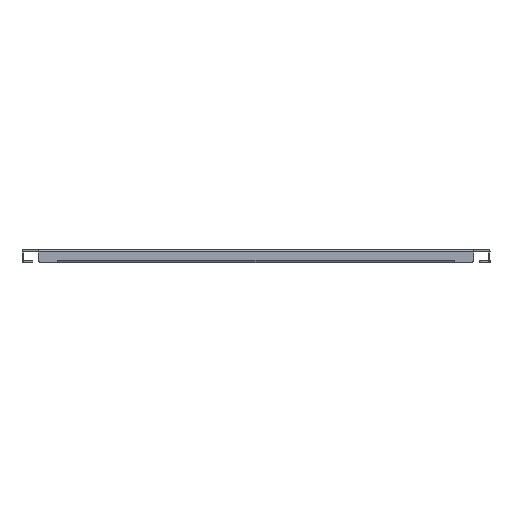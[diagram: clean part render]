
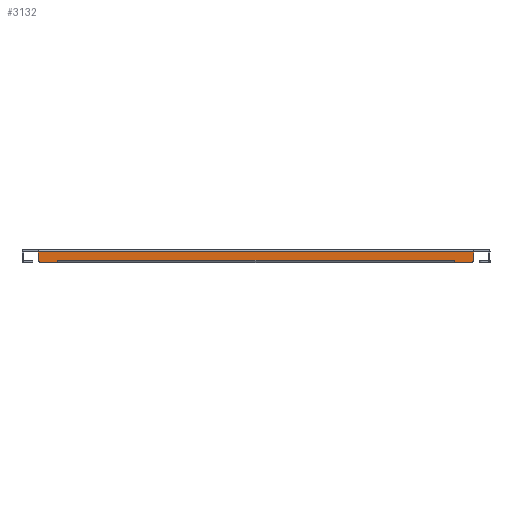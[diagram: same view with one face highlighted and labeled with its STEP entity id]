
A CAD part, front view. The second image highlights one B-rep face of the part: STEP entity #3132.
In plain terms, the highlighted planar face has unit normal (0, -1, 0).
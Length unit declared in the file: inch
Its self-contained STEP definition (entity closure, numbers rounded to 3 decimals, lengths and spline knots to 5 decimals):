
#82=PLANE('',#3407);
#200=FACE_OUTER_BOUND('',#390,.T.);
#390=EDGE_LOOP('',(#2467,#2468,#2469,#2470,#2471,#2472,#2473,#2474,#2475,
#2476,#2477,#2478,#2479,#2480));
#606=LINE('',#4836,#938);
#626=LINE('',#4904,#958);
#644=LINE('',#4965,#976);
#647=LINE('',#4970,#979);
#648=LINE('',#4974,#980);
#649=LINE('',#4976,#981);
#650=LINE('',#4978,#982);
#651=LINE('',#4980,#983);
#652=LINE('',#4982,#984);
#653=LINE('',#4984,#985);
#654=LINE('',#4986,#986);
#655=LINE('',#4987,#987);
#938=VECTOR('',#3897,0.3937);
#958=VECTOR('',#3951,0.3937);
#976=VECTOR('',#4001,0.3937);
#979=VECTOR('',#4006,0.3937);
#980=VECTOR('',#4009,0.3937);
#981=VECTOR('',#4010,0.3937);
#982=VECTOR('',#4011,0.3937);
#983=VECTOR('',#4012,0.3937);
#984=VECTOR('',#4013,0.3937);
#985=VECTOR('',#4014,0.3937);
#986=VECTOR('',#4015,0.3937);
#987=VECTOR('',#4016,0.3937);
#1233=CIRCLE('',#3405,0.125);
#1234=CIRCLE('',#3408,0.125);
#1409=VERTEX_POINT('',#4833);
#1410=VERTEX_POINT('',#4835);
#1440=VERTEX_POINT('',#4901);
#1441=VERTEX_POINT('',#4903);
#1467=VERTEX_POINT('',#4960);
#1468=VERTEX_POINT('',#4964);
#1470=VERTEX_POINT('',#4971);
#1471=VERTEX_POINT('',#4973);
#1472=VERTEX_POINT('',#4975);
#1473=VERTEX_POINT('',#4977);
#1474=VERTEX_POINT('',#4979);
#1475=VERTEX_POINT('',#4981);
#1476=VERTEX_POINT('',#4983);
#1477=VERTEX_POINT('',#4985);
#1772=EDGE_CURVE('',#1410,#1409,#606,.T.);
#1806=EDGE_CURVE('',#1441,#1440,#626,.T.);
#1835=EDGE_CURVE('',#1441,#1467,#1233,.T.);
#1837=EDGE_CURVE('',#1468,#1467,#644,.T.);
#1840=EDGE_CURVE('',#1410,#1440,#647,.T.);
#1841=EDGE_CURVE('',#1470,#1409,#1234,.T.);
#1842=EDGE_CURVE('',#1470,#1471,#648,.T.);
#1843=EDGE_CURVE('',#1471,#1472,#649,.T.);
#1844=EDGE_CURVE('',#1472,#1473,#650,.T.);
#1845=EDGE_CURVE('',#1473,#1474,#651,.T.);
#1846=EDGE_CURVE('',#1474,#1475,#652,.T.);
#1847=EDGE_CURVE('',#1475,#1476,#653,.T.);
#1848=EDGE_CURVE('',#1476,#1477,#654,.T.);
#1849=EDGE_CURVE('',#1477,#1468,#655,.T.);
#2467=ORIENTED_EDGE('',*,*,#1835,.F.);
#2468=ORIENTED_EDGE('',*,*,#1806,.T.);
#2469=ORIENTED_EDGE('',*,*,#1840,.F.);
#2470=ORIENTED_EDGE('',*,*,#1772,.T.);
#2471=ORIENTED_EDGE('',*,*,#1841,.F.);
#2472=ORIENTED_EDGE('',*,*,#1842,.T.);
#2473=ORIENTED_EDGE('',*,*,#1843,.T.);
#2474=ORIENTED_EDGE('',*,*,#1844,.T.);
#2475=ORIENTED_EDGE('',*,*,#1845,.T.);
#2476=ORIENTED_EDGE('',*,*,#1846,.T.);
#2477=ORIENTED_EDGE('',*,*,#1847,.T.);
#2478=ORIENTED_EDGE('',*,*,#1848,.T.);
#2479=ORIENTED_EDGE('',*,*,#1849,.T.);
#2480=ORIENTED_EDGE('',*,*,#1837,.T.);
#3132=ADVANCED_FACE('',(#200),#82,.F.);
#3405=AXIS2_PLACEMENT_3D('',#4961,#3996,#3997);
#3407=AXIS2_PLACEMENT_3D('',#4969,#4004,#4005);
#3408=AXIS2_PLACEMENT_3D('',#4972,#4007,#4008);
#3897=DIRECTION('',(0.,0.,-1.));
#3951=DIRECTION('',(0.,0.,1.));
#3996=DIRECTION('center_axis',(0.,1.,0.));
#3997=DIRECTION('ref_axis',(0.707,0.,-0.707));
#4001=DIRECTION('',(1.,0.,0.));
#4004=DIRECTION('center_axis',(0.,1.,0.));
#4005=DIRECTION('ref_axis',(0.,0.,1.));
#4006=DIRECTION('',(1.,0.,0.));
#4007=DIRECTION('center_axis',(0.,1.,0.));
#4008=DIRECTION('ref_axis',(-0.707,0.,-0.707));
#4009=DIRECTION('',(1.,0.,0.));
#4010=DIRECTION('',(0.,0.,1.));
#4011=DIRECTION('',(1.,0.,0.));
#4012=DIRECTION('',(0.,0.,-1.));
#4013=DIRECTION('',(1.,0.,0.));
#4014=DIRECTION('',(0.,0.,1.));
#4015=DIRECTION('',(1.,0.,0.));
#4016=DIRECTION('',(0.,0.,-1.));
#4833=CARTESIAN_POINT('',(-8.4375,-14.5,-0.319));
#4835=CARTESIAN_POINT('',(-8.4375,-14.5,-0.031));
#4836=CARTESIAN_POINT('',(-8.4375,-14.5,0.068));
#4901=CARTESIAN_POINT('',(8.4375,-14.5,-0.031));
#4903=CARTESIAN_POINT('',(8.4375,-14.5,-0.319));
#4904=CARTESIAN_POINT('',(8.4375,-14.5,-0.444));
#4960=CARTESIAN_POINT('',(8.3125,-14.5,-0.444));
#4961=CARTESIAN_POINT('Origin',(8.3125,-14.5,-0.319));
#4964=CARTESIAN_POINT('',(7.6877,-14.5,-0.444));
#4965=CARTESIAN_POINT('',(-8.4375,-14.5,-0.444));
#4969=CARTESIAN_POINT('Origin',(0.,-14.5,-0.188));
#4970=CARTESIAN_POINT('',(8.4375,-14.5,-0.031));
#4971=CARTESIAN_POINT('',(-8.3125,-14.5,-0.444));
#4972=CARTESIAN_POINT('Origin',(-8.3125,-14.5,-0.319));
#4973=CARTESIAN_POINT('',(-7.6877,-14.5,-0.444));
#4974=CARTESIAN_POINT('',(-8.4375,-14.5,-0.444));
#4975=CARTESIAN_POINT('',(-7.6877,-14.5,-0.3448));
#4976=CARTESIAN_POINT('',(-7.6877,-14.5,-0.316));
#4977=CARTESIAN_POINT('',(-7.6875,-14.5,-0.3448));
#4978=CARTESIAN_POINT('',(-3.84385,-14.5,-0.3448));
#4979=CARTESIAN_POINT('',(-7.6875,-14.5,-0.345));
#4980=CARTESIAN_POINT('',(-7.6875,-14.5,-0.2664));
#4981=CARTESIAN_POINT('',(7.6875,-14.5,-0.345));
#4982=CARTESIAN_POINT('',(3.84375,-14.5,-0.345));
#4983=CARTESIAN_POINT('',(7.6875,-14.5,-0.3448));
#4984=CARTESIAN_POINT('',(7.6875,-14.5,-0.316));
#4985=CARTESIAN_POINT('',(7.6877,-14.5,-0.3448));
#4986=CARTESIAN_POINT('',(3.84375,-14.5,-0.3448));
#4987=CARTESIAN_POINT('',(7.6877,-14.5,-0.2664));
